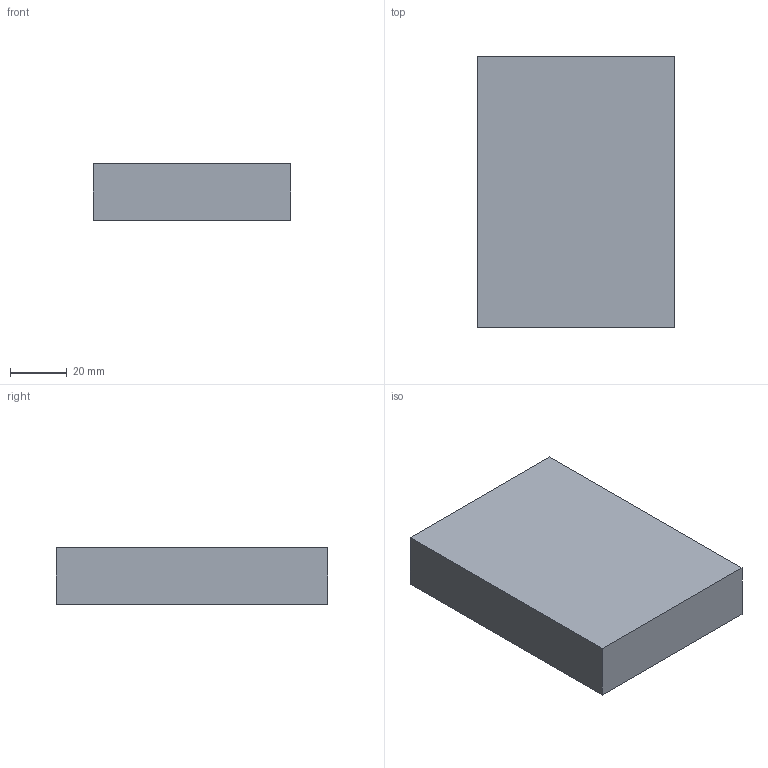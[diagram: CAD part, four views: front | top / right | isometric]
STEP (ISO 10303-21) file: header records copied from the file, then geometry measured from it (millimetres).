
FILE_DESCRIPTION(('Open CASCADE Model'),'2;1');
FILE_NAME('Open CASCADE Shape Model','2026-10-10T15:34:57',('Author'),( 'Open CASCADE'),'Open CASCADE STEP processor 7.9','Open CASCADE 7.9' ,'Unknown');
FILE_SCHEMA(('AUTOMOTIVE_DESIGN { 1 0 10303 214 1 1 1 1 }'));
Length unit declared in the file: millimetre
Products named in the file (1): Open CASCADE STEP translator 7.9 19
Bounding box: 69.5 x 95.5 x 20 mm (x, y, z)
Volume: 132745 mm3; surface area: 19874.5 mm2
Topology: 1 solids, 1 shells, 6 faces, 12 edges, 8 vertices
Faces by surface type: plane 6
Entity records: 322 total; most frequent: CARTESIAN_POINT 51, DIRECTION 50, LINE 36, VECTOR 36, ORIENTED_EDGE 24, PCURVE 24, DEFINITIONAL_REPRESENTATION 24, EDGE_CURVE 12
